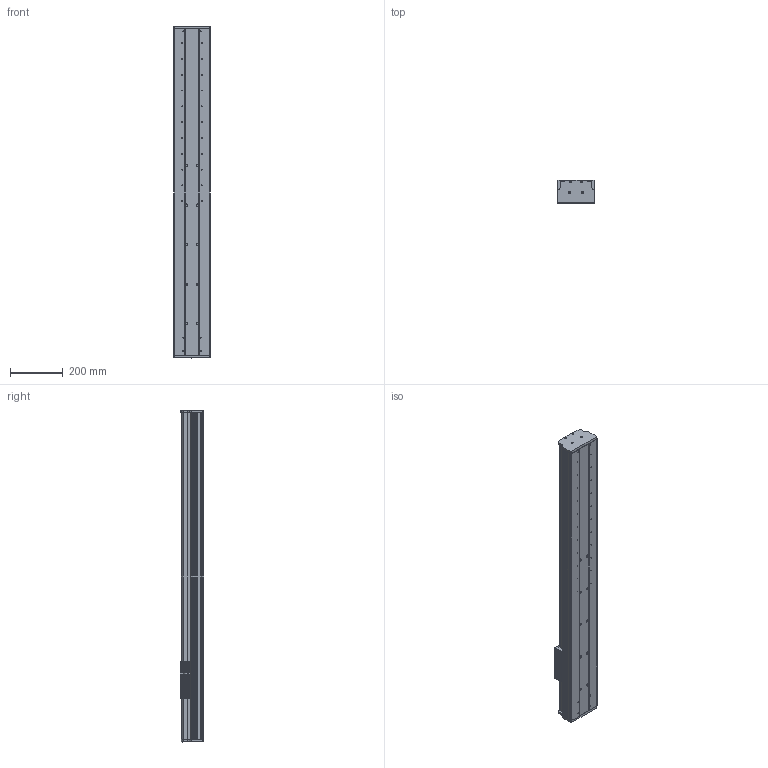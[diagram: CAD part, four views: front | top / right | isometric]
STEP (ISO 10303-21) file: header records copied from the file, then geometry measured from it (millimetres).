
FILE_DESCRIPTION (( 'STEP AP203' ), '1' );
FILE_NAME ('CF140B-C-950-FW.STEP', '2020-06-13T01:43:04', ( 'Micorosoft' ), ( 'Micorosoft' ), 'SwSTEP 2.0', 'SolidWorks 2016', '' );
FILE_SCHEMA (( 'CONFIG_CONTROL_DESIGN' ));
Length unit declared in the file: millimetre
Products named in the file (10): CF140盓傅釱; CF140裔啣; CF140萇儂啣; 140B珨极嘐隅釱; 菁釱; CF140B-C-950-FW; 15賑輸; 15絳寢; CF140蹟譫釱; CF140賑雄啣
Assembly tree (13 placements, depth 2):
  CF140B-C-950-FW
    菁釱
    15賑輸  x4
    15絳寢  x2
    CF140蹟譫釱
    CF140賑雄啣
    CF140盓傅釱
    CF140裔啣
    CF140萇儂啣
    140B珨极嘐隅釱
Bounding box: 140.05 x 89.5 x 1260 mm (x, y, z)
Volume: 5317456 mm3; surface area: 1906699.2 mm2
Topology: 13 solids, 13 shells, 1323 faces, 3642 edges, 2366 vertices
Faces by surface type: cylinder 585, plane 545, bspline 121, cone 72
Entity records: 46882 total; most frequent: CARTESIAN_POINT 15019, ORIENTED_EDGE 6524, DIRECTION 6186, EDGE_CURVE 3262, AXIS2_PLACEMENT_3D 2167, VERTEX_POINT 2162, VECTOR 1852, LINE 1852
